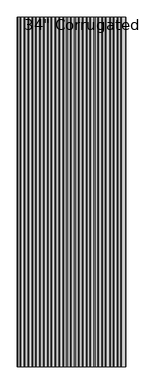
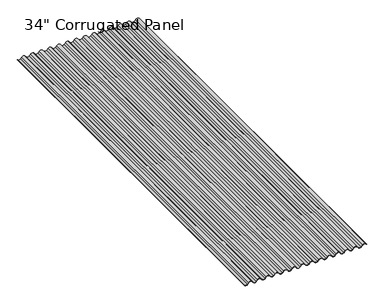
"""IFC4 building model written with IfcOpenShell, lengths in millimetres: proxy geometry."""

from ifc_helpers import new_model, si_unit, frame, origin, place, context, project, spatial, polyline, circle_curve, source, transform, mapped, element, save
from ifc_brep_helpers import plane_surface, cylinder_surface, revolved_surface, advanced_brep


def proxy_f98852e9(model_context):
    return source(origin(), model_context, "Body", "AdvancedBrep", [
        advanced_brep(
        [(-56.0964552, -3048.0, 6.1146511), (-46.8671078, -3048.0, 16.9570561), (-22.6901184, -3048.0, 16.9570561), (-13.460771, -3048.0, 6.1146511), (12.9671802, -3048.0, 6.1146511), (21.2011041, -3048.0, 15.7876575), (46.4352073, -3048.0, 15.7876575), (55.2823559, -3048.0, 5.3942501), (81.6641956, -3048.0, 5.3942501), (90.5113443, -3048.0, 15.7876575), (115.7454475, -3048.0, 15.7876575), (124.5925961, -3048.0, 5.3942501), (148.7695854, -3048.0, 5.3942501), (157.9995916, -3048.0, 16.2366551), (183.0972407, -3048.0, 16.2366551), (192.3265882, -3048.0, 5.3942501), (216.5035775, -3048.0, 5.3942501), (225.732925, -3048.0, 16.2366551), (250.8305741, -3048.0, 16.2366551), (260.0599215, -3048.0, 5.3942501), (284.2369108, -3048.0, 5.3942501), (293.4662583, -3048.0, 16.2366551), (318.5639074, -3048.0, 16.2366551), (327.7932549, -3048.0, 5.3942501), (351.9702442, -3048.0, 5.3942501), (361.1995916, -3048.0, 16.2366551), (386.2972407, -3048.0, 16.2366551), (395.5265882, -3048.0, 5.3942501), (419.7035775, -3048.0, 5.3942501), (428.932925, -3048.0, 16.2366551), (454.0270538, -3048.0, 16.2366551), (458.4362991, -3048.0, 11.0567847), (459.0735568, -3048.0, 11.6940423), (454.70879, -3048.0, 16.8216604), (428.2511887, -3048.0, 16.8216604), (419.0235962, -3048.0, 5.9813171), (396.2065592, -3048.0, 5.9813171), (386.9772066, -3048.0, 16.8237282), (360.5196052, -3048.0, 16.8237282), (351.2902475, -3048.0, 5.981311), (328.4732104, -3048.0, 5.981311), (319.2438423, -3048.0, 16.8237402), (292.786241, -3048.0, 16.8237402), (283.5568524, -3048.0, 5.9812869), (260.7398153, -3048.0, 5.9812869), (251.5103855, -3048.0, 16.8237886), (225.0527842, -3048.0, 16.8237886), (215.823272, -3048.0, 5.9811901), (193.0062349, -3048.0, 5.9811901), (183.7765581, -3048.0, 16.8239821), (157.3189567, -3048.0, 16.8239821), (148.0892799, -3048.0, 5.9811901), (125.2722428, -3048.0, 5.9811901), (116.4267411, -3048.0, 16.3726628), (89.8287331, -3048.0, 16.3726628), (80.9832314, -3048.0, 5.9811901), (55.9620027, -3048.0, 5.9811901), (47.116501, -3048.0, 16.3726628), (20.5184929, -3048.0, 16.3726628), (12.2862807, -3048.0, 6.7016671), (-12.7806596, -3048.0, 6.7016671), (-22.0082954, -3048.0, 17.5420613), (-47.5489308, -3048.0, 17.5420613), (-56.7765666, -3048.0, 6.7016671), (-80.5142635, -3048.0, 6.7016671), (-89.7437462, -3048.0, 17.544231), (-115.2806878, -3048.0, 17.544231), (-124.5103058, -3048.0, 6.7015082), (-148.2480026, -3048.0, 6.7015082), (-157.4778911, -3048.0, 17.5445488), (-183.0148327, -3048.0, 17.5445488), (-192.2452623, -3048.0, 6.7008725), (-215.9829591, -3048.0, 6.7008725), (-225.2127394, -3048.0, 17.5437861), (-250.749681, -3048.0, 17.5437861), (-259.9764314, -3048.0, 6.7044321), (-283.7141282, -3048.0, 6.7044321), (-292.9428732, -3048.0, 17.5461294), (-318.4798148, -3048.0, 17.5461294), (-327.7091622, -3048.0, 6.7037244), (-351.4468591, -3048.0, 6.7037244), (-360.6757927, -3048.0, 17.5456432), (-386.2127342, -3048.0, 17.5456432), (-395.4451307, -3048.0, 6.6996563), (-419.1828275, -3048.0, 6.6996563), (-422.5069723, -3048.0, 10.604778), (-428.2511887, -3048.0, 17.3560326), (-454.70879, -3048.0, 17.3560326), (-463.9390868, -3048.0, 6.5125123), (-486.5540666, -3048.0, 6.2800254), (-488.1596764, -3048.0, 8.1662554), (-488.7975284, -3048.0, 7.5284034), (-487.4357516, -3048.0, 5.9286223), (-463.2587623, -3048.0, 5.9286223), (-454.0294148, -3048.0, 16.7710273), (-428.9317657, -3048.0, 16.7710273), (-423.1888257, -3048.0, 10.024366), (-419.860771, -3048.0, 6.1146511), (-394.7631219, -3048.0, 6.1146511), (-385.5337744, -3048.0, 16.9570561), (-361.3567851, -3048.0, 16.9570561), (-352.1274376, -3048.0, 6.1146511), (-327.0297886, -3048.0, 6.1146511), (-317.8004411, -3048.0, 16.9570561), (-293.6234518, -3048.0, 16.9570561), (-284.3941043, -3048.0, 6.1146511), (-259.2964552, -3048.0, 6.1146511), (-250.0671078, -3048.0, 16.9570561), (-225.8901184, -3048.0, 16.9570561), (-216.660771, -3048.0, 6.1146511), (-191.5631219, -3048.0, 6.1146511), (-182.3337744, -3048.0, 16.9570561), (-158.1567851, -3048.0, 16.9570561), (-148.9274376, -3048.0, 6.1146511), (-123.8297886, -3048.0, 6.1146511), (-114.6004411, -3048.0, 16.9570561), (-90.4234518, -3048.0, 16.9570561), (-81.1941043, -3048.0, 6.1146511), (-56.0964552, 0.0, 6.1146511), (-81.1941043, 0.0, 6.1146511), (-90.4234518, 0.0, 16.9570561), (-114.6004411, 0.0, 16.9570561), (-123.8297886, 0.0, 6.1146511), (-148.9274376, 0.0, 6.1146511), (-158.1567851, 0.0, 16.9570561), (-182.3337744, 0.0, 16.9570561), (-191.5631219, 0.0, 6.1146511), (-216.660771, 0.0, 6.1146511), (-225.8901184, 0.0, 16.9570561), (-250.0671078, 0.0, 16.9570561), (-259.2964552, 0.0, 6.1146511), (-284.3941043, 0.0, 6.1146511), (-293.6234518, 0.0, 16.9570561), (-317.8004411, 0.0, 16.9570561), (-327.0297886, 0.0, 6.1146511), (-352.1274376, 0.0, 6.1146511), (-361.3567851, 0.0, 16.9570561), (-385.5337744, 0.0, 16.9570561), (-394.7631219, 0.0, 6.1146511), (-419.860771, 0.0, 6.1146511), (-423.1888257, 0.0, 10.024366), (-428.9317657, 0.0, 16.7710273), (-454.0294148, 0.0, 16.7710273), (-463.2587623, 0.0, 5.9286223), (-487.4357516, 0.0, 5.9286223), (-488.7975284, 0.0, 7.5284034), (-488.1596764, 0.0, 8.1662554), (-486.5540666, 0.0, 6.2800254), (-463.9390868, 0.0, 6.5125123), (-454.70879, 0.0, 17.3560326), (-428.2511887, 0.0, 17.3560326), (-422.5054453, 0.0, 10.6060779), (-419.1828275, 0.0, 6.6996563), (-395.4451307, 0.0, 6.6996563), (-386.2127342, 0.0, 17.5456432), (-360.6757927, 0.0, 17.5456432), (-351.4468591, 0.0, 6.7037244), (-327.7091622, 0.0, 6.7037244), (-318.4798148, 0.0, 17.5461294), (-292.9428732, 0.0, 17.5461294), (-283.7141282, 0.0, 6.7044321), (-259.9764314, 0.0, 6.7044321), (-250.749681, 0.0, 17.5437861), (-225.2127394, 0.0, 17.5437861), (-215.9829591, 0.0, 6.7008725), (-192.2452623, 0.0, 6.7008725), (-183.0148327, 0.0, 17.5445488), (-157.4778911, 0.0, 17.5445488), (-148.2480026, 0.0, 6.7015082), (-124.5103058, 0.0, 6.7015082), (-115.2806878, 0.0, 17.544231), (-89.7437462, 0.0, 17.544231), (-80.5142635, 0.0, 6.7016671), (-56.7765666, 0.0, 6.7016671), (-47.5489308, 0.0, 17.5420613), (-22.0082954, 0.0, 17.5420613), (-12.7806596, 0.0, 6.7016671), (12.2862807, 0.0, 6.7016671), (20.5184929, 0.0, 16.3726628), (47.116501, 0.0, 16.3726628), (55.9620027, 0.0, 5.9811901), (80.9832314, 0.0, 5.9811901), (89.8287331, 0.0, 16.3726628), (116.4267411, 0.0, 16.3726628), (125.2722428, 0.0, 5.9811901), (148.0892799, 0.0, 5.9811901), (157.3189567, 0.0, 16.8239821), (183.7765581, 0.0, 16.8239821), (193.0062349, 0.0, 5.9811901), (215.823272, 0.0, 5.9811901), (225.0527842, 0.0, 16.8237886), (251.5103855, 0.0, 16.8237886), (260.7398153, 0.0, 5.9812869), (283.5568524, 0.0, 5.9812869), (292.786241, 0.0, 16.8237402), (319.2438423, 0.0, 16.8237402), (328.4732104, 0.0, 5.981311), (351.2902475, 0.0, 5.981311), (360.5196052, 0.0, 16.8237282), (386.9772066, 0.0, 16.8237282), (396.2065592, 0.0, 5.9813171), (419.0235962, 0.0, 5.9813171), (428.2511887, 0.0, 16.8216604), (454.70879, 0.0, 16.8216604), (459.0735568, 0.0, 11.6940423), (458.4362991, 0.0, 11.0567847), (454.0270538, 0.0, 16.2366551), (428.932925, 0.0, 16.2366551), (419.7035775, 0.0, 5.3942501), (395.5265882, 0.0, 5.3942501), (386.2972407, 0.0, 16.2366551), (361.1995916, 0.0, 16.2366551), (351.9702442, 0.0, 5.3942501), (327.7932549, 0.0, 5.3942501), (318.5639074, 0.0, 16.2366551), (293.4662583, 0.0, 16.2366551), (284.2369108, 0.0, 5.3942501), (260.0599215, 0.0, 5.3942501), (250.8305741, 0.0, 16.2366551), (225.732925, 0.0, 16.2366551), (216.5035775, 0.0, 5.3942501), (192.3265882, 0.0, 5.3942501), (183.0972407, 0.0, 16.2366551), (157.9995916, 0.0, 16.2366551), (148.7702442, 0.0, 5.3942501), (124.5925961, 0.0, 5.3942501), (115.7454475, 0.0, 15.7876575), (90.5113443, 0.0, 15.7876575), (81.6641956, 0.0, 5.3942501), (55.2823559, 0.0, 5.3942501), (46.4352073, 0.0, 15.7876575), (21.2011041, 0.0, 15.7876575), (12.9671802, 0.0, 6.1146511), (-13.460771, 0.0, 6.1146511), (-22.6901184, 0.0, 16.9570561), (-46.8671078, 0.0, 16.9570561)],
        [
            (0, 1),
            (1, 2, circle_curve(frame((-34.7786131, -3048.0, 6.6670035), z_axis=(0.0, 1.0, 0.0), x_axis=(1.0, 0.0, 0.0)), 15.8750397)),
            (2, 3),
            (3, 4, circle_curve(frame((-0.2467954, -3048.0, 17.3627433), z_axis=(0.0, -1.0, 0.0), x_axis=(1.0, 0.0, 0.0)), 17.3530611)),
            (4, 5),
            (5, 6, circle_curve(frame((33.8181557, -3048.0, 5.047683), z_axis=(0.0, 1.0, 0.0), x_axis=(1.0, 0.0, 0.0)), 16.5691594)),
            (6, 7),
            (7, 8, circle_curve(frame((68.4732758, -3048.0, 16.6227167), z_axis=(0.0, -1.0, 0.0), x_axis=(1.0, 0.0, 0.0)), 17.3227835)),
            (8, 9),
            (9, 10, circle_curve(frame((103.1283959, -3048.0, 5.047683), z_axis=(0.0, 1.0, 0.0), x_axis=(1.0, 0.0, 0.0)), 16.5691594)),
            (10, 11),
            (11, 12, circle_curve(frame((136.6810907, -3048.0, 15.6843027), z_axis=(0.0, -1.0, 0.0), x_axis=(1.0, 0.0, 0.0)), 15.8750397)),
            (12, 13),
            (13, 14, circle_curve(frame((170.5484162, -3048.0, 5.5547573), z_axis=(0.0, 1.0, 0.0), x_axis=(1.0, 0.0, 0.0)), 16.4795612)),
            (14, 15),
            (15, 16, circle_curve(frame((204.4150829, -3048.0, 15.6843027), z_axis=(0.0, -1.0, 0.0), x_axis=(1.0, 0.0, 0.0)), 15.8750397)),
            (16, 17),
            (17, 18, circle_curve(frame((238.2817495, -3048.0, 5.5547573), z_axis=(0.0, 1.0, 0.0), x_axis=(1.0, 0.0, 0.0)), 16.4795612)),
            (18, 19),
            (19, 20, circle_curve(frame((272.1484162, -3048.0, 15.6843027), z_axis=(0.0, -1.0, 0.0), x_axis=(1.0, 0.0, 0.0)), 15.8750397)),
            (20, 21),
            (21, 22, circle_curve(frame((306.0150829, -3048.0, 5.5547573), z_axis=(0.0, 1.0, 0.0), x_axis=(1.0, 0.0, 0.0)), 16.4795612)),
            (22, 23),
            (23, 24, circle_curve(frame((339.8817495, -3048.0, 15.6843027), z_axis=(0.0, -1.0, 0.0), x_axis=(1.0, 0.0, 0.0)), 15.8750397)),
            (24, 25),
            (25, 26, circle_curve(frame((373.7484162, -3048.0, 5.5547573), z_axis=(0.0, 1.0, 0.0), x_axis=(1.0, 0.0, 0.0)), 16.4795612)),
            (26, 27),
            (27, 28, circle_curve(frame((407.6150829, -3048.0, 15.6843027), z_axis=(0.0, -1.0, 0.0), x_axis=(1.0, 0.0, 0.0)), 15.8750397)),
            (28, 29),
            (29, 30, circle_curve(frame((441.4799894, -3048.0, 5.5562556), z_axis=(0.0, 1.0, 0.0), x_axis=(1.0, 0.0, 0.0)), 16.4772497)),
            (30, 31),
            (31, 32),
            (32, 33),
            (33, 34, circle_curve(frame((441.4799894, -3048.0, 5.5609486), z_axis=(0.0, -1.0, 0.0), x_axis=(1.0, 0.0, 0.0)), 17.3725299)),
            (34, 35),
            (35, 36, circle_curve(frame((407.6150777, -3048.0, 15.6925556), z_axis=(0.0, 1.0, 0.0), x_axis=(1.0, 0.0, 0.0)), 14.9820709)),
            (36, 37),
            (37, 38, circle_curve(frame((373.7484059, -3048.0, 5.5630164), z_axis=(0.0, -1.0, 0.0), x_axis=(1.0, 0.0, 0.0)), 17.3725299)),
            (38, 39),
            (39, 40, circle_curve(frame((339.8817289, -3048.0, 15.6925496), z_axis=(0.0, 1.0, 0.0), x_axis=(1.0, 0.0, 0.0)), 14.9820709)),
            (40, 41),
            (41, 42, circle_curve(frame((306.0150417, -3048.0, 5.5630285), z_axis=(0.0, -1.0, 0.0), x_axis=(1.0, 0.0, 0.0)), 17.3725299)),
            (42, 43),
            (43, 44, circle_curve(frame((272.1483338, -3048.0, 15.6925254), z_axis=(0.0, 1.0, 0.0), x_axis=(1.0, 0.0, 0.0)), 14.9820709)),
            (44, 45),
            (45, 46, circle_curve(frame((238.2815848, -3048.0, 5.5630768), z_axis=(0.0, -1.0, 0.0), x_axis=(1.0, 0.0, 0.0)), 17.3725299)),
            (46, 47),
            (47, 48, circle_curve(frame((204.4147535, -3048.0, 15.6924287), z_axis=(0.0, 1.0, 0.0), x_axis=(1.0, 0.0, 0.0)), 14.9820709)),
            (48, 49),
            (49, 50, circle_curve(frame((170.5477574, -3048.0, 5.5632703), z_axis=(0.0, -1.0, 0.0), x_axis=(1.0, 0.0, 0.0)), 17.3725299)),
            (50, 51),
            (51, 52, circle_curve(frame((136.6807614, -3048.0, 15.6924287), z_axis=(0.0, 1.0, 0.0), x_axis=(1.0, 0.0, 0.0)), 14.9820709)),
            (52, 53),
            (53, 54, circle_curve(frame((103.1277371, -3048.0, 5.052192), z_axis=(0.0, -1.0, 0.0), x_axis=(1.0, 0.0, 0.0)), 17.4647235)),
            (54, 55),
            (55, 56, circle_curve(frame((68.472617, -3048.0, 16.6305623), z_axis=(0.0, 1.0, 0.0), x_axis=(1.0, 0.0, 0.0)), 16.4293822)),
            (56, 57),
            (57, 58, circle_curve(frame((33.817497, -3048.0, 5.052192), z_axis=(0.0, -1.0, 0.0), x_axis=(1.0, 0.0, 0.0)), 17.4647235)),
            (58, 59),
            (59, 60, circle_curve(frame((-0.2471895, -3048.0, 17.3704948), z_axis=(0.0, 1.0, 0.0), x_axis=(1.0, 0.0, 0.0)), 16.4593972)),
            (60, 61),
            (61, 62, circle_curve(frame((-34.7786131, -3048.0, 6.6716226), z_axis=(0.0, -1.0, 0.0), x_axis=(1.0, 0.0, 0.0)), 16.7704338)),
            (62, 63),
            (63, 64, circle_curve(frame((-68.645415, -3048.0, 16.8047509), z_axis=(0.0, 1.0, 0.0), x_axis=(1.0, 0.0, 0.0)), 15.5865924)),
            (64, 65),
            (65, 66, circle_curve(frame((-102.512217, -3048.0, 6.6753644), z_axis=(0.0, -1.0, 0.0), x_axis=(1.0, 0.0, 0.0)), 16.7680084)),
            (66, 67),
            (67, 68, circle_curve(frame((-136.3791542, -3048.0, 16.8045919), z_axis=(0.0, 1.0, 0.0), x_axis=(1.0, 0.0, 0.0)), 15.5865924)),
            (68, 69),
            (69, 70, circle_curve(frame((-170.2463619, -3048.0, 6.6756823), z_axis=(0.0, -1.0, 0.0), x_axis=(1.0, 0.0, 0.0)), 16.7680084)),
            (70, 71),
            (71, 72, circle_curve(frame((-204.1141107, -3048.0, 16.8039563), z_axis=(0.0, 1.0, 0.0), x_axis=(1.0, 0.0, 0.0)), 15.5865924)),
            (72, 73),
            (73, 74, circle_curve(frame((-237.9812102, -3048.0, 6.6749195), z_axis=(0.0, -1.0, 0.0), x_axis=(1.0, 0.0, 0.0)), 16.7680084)),
            (74, 75),
            (75, 76, circle_curve(frame((-271.8452798, -3048.0, 16.8075159), z_axis=(0.0, 1.0, 0.0), x_axis=(1.0, 0.0, 0.0)), 15.5865924)),
            (76, 77),
            (77, 78, circle_curve(frame((-305.711344, -3048.0, 6.6772628), z_axis=(0.0, -1.0, 0.0), x_axis=(1.0, 0.0, 0.0)), 16.7680084)),
            (78, 79),
            (79, 80, circle_curve(frame((-339.5780107, -3048.0, 16.8068081), z_axis=(0.0, 1.0, 0.0), x_axis=(1.0, 0.0, 0.0)), 15.5865924)),
            (80, 81),
            (81, 82, circle_curve(frame((-373.4442634, -3048.0, 6.6767766), z_axis=(0.0, -1.0, 0.0), x_axis=(1.0, 0.0, 0.0)), 16.7680084)),
            (82, 83),
            (83, 84, circle_curve(frame((-407.3139791, -3048.0, 16.8027401), z_axis=(0.0, 1.0, 0.0), x_axis=(1.0, 0.0, 0.0)), 15.5865924)),
            (84, 85),
            (85, 86),
            (86, 87, circle_curve(frame((-441.4799894, -3048.0, 6.0953208), z_axis=(0.0, -1.0, 0.0), x_axis=(1.0, 0.0, 0.0)), 17.3725299)),
            (87, 88),
            (88, 89, circle_curve(frame((-475.3476054, -3048.0, 16.2237508), z_axis=(0.0, 1.0, 0.0), x_axis=(1.0, 0.0, 0.0)), 14.9820709)),
            (89, 90),
            (90, 91),
            (91, 92),
            (92, 93, circle_curve(frame((-475.3472569, -3048.0, 16.2186748), z_axis=(0.0, -1.0, 0.0), x_axis=(1.0, 0.0, 0.0)), 15.8750397)),
            (93, 94),
            (94, 95, circle_curve(frame((-441.4805903, -3048.0, 6.0891295), z_axis=(0.0, 1.0, 0.0), x_axis=(1.0, 0.0, 0.0)), 16.4795612)),
            (95, 96),
            (96, 97),
            (97, 98, circle_curve(frame((-407.3119464, -3048.0, 16.7965488), z_axis=(0.0, -1.0, 0.0), x_axis=(1.0, 0.0, 0.0)), 16.4795612)),
            (98, 99),
            (99, 100, circle_curve(frame((-373.4452798, -3048.0, 6.6670035), z_axis=(0.0, 1.0, 0.0), x_axis=(1.0, 0.0, 0.0)), 15.8750397)),
            (100, 101),
            (101, 102, circle_curve(frame((-339.5786131, -3048.0, 16.7965488), z_axis=(0.0, -1.0, 0.0), x_axis=(1.0, 0.0, 0.0)), 16.4795612)),
            (102, 103),
            (103, 104, circle_curve(frame((-305.7119464, -3048.0, 6.6670035), z_axis=(0.0, 1.0, 0.0), x_axis=(1.0, 0.0, 0.0)), 15.8750397)),
            (104, 105),
            (105, 106, circle_curve(frame((-271.8452798, -3048.0, 16.7965488), z_axis=(0.0, -1.0, 0.0), x_axis=(1.0, 0.0, 0.0)), 16.4795612)),
            (106, 107),
            (107, 108, circle_curve(frame((-237.9786131, -3048.0, 6.6670035), z_axis=(0.0, 1.0, 0.0), x_axis=(1.0, 0.0, 0.0)), 15.8750397)),
            (108, 109),
            (109, 110, circle_curve(frame((-204.1119464, -3048.0, 16.7965488), z_axis=(0.0, -1.0, 0.0), x_axis=(1.0, 0.0, 0.0)), 16.4795612)),
            (110, 111),
            (111, 112, circle_curve(frame((-170.2452798, -3048.0, 6.6670035), z_axis=(0.0, 1.0, 0.0), x_axis=(1.0, 0.0, 0.0)), 15.8750397)),
            (112, 113),
            (113, 114, circle_curve(frame((-136.3786131, -3048.0, 16.7965488), z_axis=(0.0, -1.0, 0.0), x_axis=(1.0, 0.0, 0.0)), 16.4795612)),
            (114, 115),
            (115, 116, circle_curve(frame((-102.5119464, -3048.0, 6.6670035), z_axis=(0.0, 1.0, 0.0), x_axis=(1.0, 0.0, 0.0)), 15.8750397)),
            (116, 117),
            (117, 0, circle_curve(frame((-68.6452798, -3048.0, 16.7965488), z_axis=(0.0, -1.0, 0.0), x_axis=(1.0, 0.0, 0.0)), 16.4795612)),
            (118, 119, circle_curve(frame((-68.6452798, 0.0, 16.7965488), z_axis=(0.0, 1.0, 0.0), x_axis=(1.0, 0.0, 0.0)), 16.4795612)),
            (119, 120),
            (120, 121, circle_curve(frame((-102.5119464, 0.0, 6.6670035), z_axis=(0.0, -1.0, 0.0), x_axis=(1.0, 0.0, 0.0)), 15.8750397)),
            (121, 122),
            (122, 123, circle_curve(frame((-136.3786131, 0.0, 16.7965488), z_axis=(0.0, 1.0, 0.0), x_axis=(1.0, 0.0, 0.0)), 16.4795612)),
            (123, 124),
            (124, 125, circle_curve(frame((-170.2452798, 0.0, 6.6670035), z_axis=(0.0, -1.0, 0.0), x_axis=(1.0, 0.0, 0.0)), 15.8750397)),
            (125, 126),
            (126, 127, circle_curve(frame((-204.1119464, 0.0, 16.7965488), z_axis=(0.0, 1.0, 0.0), x_axis=(1.0, 0.0, 0.0)), 16.4795612)),
            (127, 128),
            (128, 129, circle_curve(frame((-237.9786131, 0.0, 6.6670035), z_axis=(0.0, -1.0, 0.0), x_axis=(1.0, 0.0, 0.0)), 15.8750397)),
            (129, 130),
            (130, 131, circle_curve(frame((-271.8452798, 0.0, 16.7965488), z_axis=(0.0, 1.0, 0.0), x_axis=(1.0, 0.0, 0.0)), 16.4795612)),
            (131, 132),
            (132, 133, circle_curve(frame((-305.7119464, 0.0, 6.6670035), z_axis=(0.0, -1.0, 0.0), x_axis=(1.0, 0.0, 0.0)), 15.8750397)),
            (133, 134),
            (134, 135, circle_curve(frame((-339.5786131, 0.0, 16.7965488), z_axis=(0.0, 1.0, 0.0), x_axis=(1.0, 0.0, 0.0)), 16.4795612)),
            (135, 136),
            (136, 137, circle_curve(frame((-373.4452798, 0.0, 6.6670035), z_axis=(0.0, -1.0, 0.0), x_axis=(1.0, 0.0, 0.0)), 15.8750397)),
            (137, 138),
            (138, 139, circle_curve(frame((-407.3119464, 0.0, 16.7965488), z_axis=(0.0, 1.0, 0.0), x_axis=(1.0, 0.0, 0.0)), 16.4795612)),
            (139, 140),
            (140, 141),
            (141, 142, circle_curve(frame((-441.4805903, 0.0, 6.0891295), z_axis=(0.0, -1.0, 0.0), x_axis=(1.0, 0.0, 0.0)), 16.4795612)),
            (142, 143),
            (143, 144, circle_curve(frame((-475.3472569, 0.0, 16.2186748), z_axis=(0.0, 1.0, 0.0), x_axis=(1.0, 0.0, 0.0)), 15.8750397)),
            (144, 145),
            (145, 146),
            (146, 147),
            (147, 148, circle_curve(frame((-475.3476054, 0.0, 16.2237508), z_axis=(0.0, -1.0, 0.0), x_axis=(1.0, 0.0, 0.0)), 14.9820709)),
            (148, 149),
            (149, 150, circle_curve(frame((-441.4799894, 0.0, 6.0953208), z_axis=(0.0, 1.0, 0.0), x_axis=(1.0, 0.0, 0.0)), 17.3725299)),
            (150, 151),
            (151, 152),
            (152, 153, circle_curve(frame((-407.3139791, 0.0, 16.8027401), z_axis=(0.0, -1.0, 0.0), x_axis=(1.0, 0.0, 0.0)), 15.5865924)),
            (153, 154),
            (154, 155, circle_curve(frame((-373.4442634, 0.0, 6.6767766), z_axis=(0.0, 1.0, 0.0), x_axis=(1.0, 0.0, 0.0)), 16.7680084)),
            (155, 156),
            (156, 157, circle_curve(frame((-339.5780107, 0.0, 16.8068081), z_axis=(0.0, -1.0, 0.0), x_axis=(1.0, 0.0, 0.0)), 15.5865924)),
            (157, 158),
            (158, 159, circle_curve(frame((-305.711344, 0.0, 6.6772628), z_axis=(0.0, 1.0, 0.0), x_axis=(1.0, 0.0, 0.0)), 16.7680084)),
            (159, 160),
            (160, 161, circle_curve(frame((-271.8452798, 0.0, 16.8075159), z_axis=(0.0, -1.0, 0.0), x_axis=(1.0, 0.0, 0.0)), 15.5865924)),
            (161, 162),
            (162, 163, circle_curve(frame((-237.9812102, 0.0, 6.6749195), z_axis=(0.0, 1.0, 0.0), x_axis=(1.0, 0.0, 0.0)), 16.7680084)),
            (163, 164),
            (164, 165, circle_curve(frame((-204.1141107, 0.0, 16.8039563), z_axis=(0.0, -1.0, 0.0), x_axis=(1.0, 0.0, 0.0)), 15.5865924)),
            (165, 166),
            (166, 167, circle_curve(frame((-170.2463619, 0.0, 6.6756823), z_axis=(0.0, 1.0, 0.0), x_axis=(1.0, 0.0, 0.0)), 16.7680084)),
            (167, 168),
            (168, 169, circle_curve(frame((-136.3791542, 0.0, 16.8045919), z_axis=(0.0, -1.0, 0.0), x_axis=(1.0, 0.0, 0.0)), 15.5865924)),
            (169, 170),
            (170, 171, circle_curve(frame((-102.512217, 0.0, 6.6753644), z_axis=(0.0, 1.0, 0.0), x_axis=(1.0, 0.0, 0.0)), 16.7680084)),
            (171, 172),
            (172, 173, circle_curve(frame((-68.645415, 0.0, 16.8047509), z_axis=(0.0, -1.0, 0.0), x_axis=(1.0, 0.0, 0.0)), 15.5865924)),
            (173, 174),
            (174, 175, circle_curve(frame((-34.7786131, 0.0, 6.6716226), z_axis=(0.0, 1.0, 0.0), x_axis=(1.0, 0.0, 0.0)), 16.7704338)),
            (175, 176),
            (176, 177, circle_curve(frame((-0.2471895, 0.0, 17.3704948), z_axis=(0.0, -1.0, 0.0), x_axis=(1.0, 0.0, 0.0)), 16.4593972)),
            (177, 178),
            (178, 179, circle_curve(frame((33.817497, 0.0, 5.052192), z_axis=(0.0, 1.0, 0.0), x_axis=(1.0, 0.0, 0.0)), 17.4647235)),
            (179, 180),
            (180, 181, circle_curve(frame((68.472617, 0.0, 16.6305623), z_axis=(0.0, -1.0, 0.0), x_axis=(1.0, 0.0, 0.0)), 16.4293822)),
            (181, 182),
            (182, 183, circle_curve(frame((103.1277371, 0.0, 5.052192), z_axis=(0.0, 1.0, 0.0), x_axis=(1.0, 0.0, 0.0)), 17.4647235)),
            (183, 184),
            (184, 185, circle_curve(frame((136.6807614, 0.0, 15.6924287), z_axis=(0.0, -1.0, 0.0), x_axis=(1.0, 0.0, 0.0)), 14.9820709)),
            (185, 186),
            (186, 187, circle_curve(frame((170.5477574, 0.0, 5.5632703), z_axis=(0.0, 1.0, 0.0), x_axis=(1.0, 0.0, 0.0)), 17.3725299)),
            (187, 188),
            (188, 189, circle_curve(frame((204.4147535, 0.0, 15.6924287), z_axis=(0.0, -1.0, 0.0), x_axis=(1.0, 0.0, 0.0)), 14.9820709)),
            (189, 190),
            (190, 191, circle_curve(frame((238.2815848, 0.0, 5.5630768), z_axis=(0.0, 1.0, 0.0), x_axis=(1.0, 0.0, 0.0)), 17.3725299)),
            (191, 192),
            (192, 193, circle_curve(frame((272.1483338, 0.0, 15.6925254), z_axis=(0.0, -1.0, 0.0), x_axis=(1.0, 0.0, 0.0)), 14.9820709)),
            (193, 194),
            (194, 195, circle_curve(frame((306.0150417, 0.0, 5.5630285), z_axis=(0.0, 1.0, 0.0), x_axis=(1.0, 0.0, 0.0)), 17.3725299)),
            (195, 196),
            (196, 197, circle_curve(frame((339.8817289, 0.0, 15.6925496), z_axis=(0.0, -1.0, 0.0), x_axis=(1.0, 0.0, 0.0)), 14.9820709)),
            (197, 198),
            (198, 199, circle_curve(frame((373.7484059, 0.0, 5.5630164), z_axis=(0.0, 1.0, 0.0), x_axis=(1.0, 0.0, 0.0)), 17.3725299)),
            (199, 200),
            (200, 201, circle_curve(frame((407.6150777, 0.0, 15.6925556), z_axis=(0.0, -1.0, 0.0), x_axis=(1.0, 0.0, 0.0)), 14.9820709)),
            (201, 202),
            (202, 203, circle_curve(frame((441.4799894, 0.0, 5.5609486), z_axis=(0.0, 1.0, 0.0), x_axis=(1.0, 0.0, 0.0)), 17.3725299)),
            (203, 204),
            (204, 205),
            (205, 206),
            (206, 207, circle_curve(frame((441.4799894, 0.0, 5.5562556), z_axis=(0.0, -1.0, 0.0), x_axis=(1.0, 0.0, 0.0)), 16.4772497)),
            (207, 208),
            (208, 209, circle_curve(frame((407.6150829, 0.0, 15.6843027), z_axis=(0.0, 1.0, 0.0), x_axis=(1.0, 0.0, 0.0)), 15.8750397)),
            (209, 210),
            (210, 211, circle_curve(frame((373.7484162, 0.0, 5.5547573), z_axis=(0.0, -1.0, 0.0), x_axis=(1.0, 0.0, 0.0)), 16.4795612)),
            (211, 212),
            (212, 213, circle_curve(frame((339.8817495, 0.0, 15.6843027), z_axis=(0.0, 1.0, 0.0), x_axis=(1.0, 0.0, 0.0)), 15.8750397)),
            (213, 214),
            (214, 215, circle_curve(frame((306.0150829, 0.0, 5.5547573), z_axis=(0.0, -1.0, 0.0), x_axis=(1.0, 0.0, 0.0)), 16.4795612)),
            (215, 216),
            (216, 217, circle_curve(frame((272.1484162, 0.0, 15.6843027), z_axis=(0.0, 1.0, 0.0), x_axis=(1.0, 0.0, 0.0)), 15.8750397)),
            (217, 218),
            (218, 219, circle_curve(frame((238.2817495, 0.0, 5.5547573), z_axis=(0.0, -1.0, 0.0), x_axis=(1.0, 0.0, 0.0)), 16.4795612)),
            (219, 220),
            (220, 221, circle_curve(frame((204.4150829, 0.0, 15.6843027), z_axis=(0.0, 1.0, 0.0), x_axis=(1.0, 0.0, 0.0)), 15.8750397)),
            (221, 222),
            (222, 223, circle_curve(frame((170.5484162, 0.0, 5.5547573), z_axis=(0.0, -1.0, 0.0), x_axis=(1.0, 0.0, 0.0)), 16.4795612)),
            (223, 224),
            (224, 225, circle_curve(frame((136.6810907, 0.0, 15.6843027), z_axis=(0.0, 1.0, 0.0), x_axis=(1.0, 0.0, 0.0)), 15.8750397)),
            (225, 226),
            (226, 227, circle_curve(frame((103.1283959, 0.0, 5.047683), z_axis=(0.0, -1.0, 0.0), x_axis=(1.0, 0.0, 0.0)), 16.5691594)),
            (227, 228),
            (228, 229, circle_curve(frame((68.4732758, 0.0, 16.6227167), z_axis=(0.0, 1.0, 0.0), x_axis=(1.0, 0.0, 0.0)), 17.3227835)),
            (229, 230),
            (230, 231, circle_curve(frame((33.8181557, 0.0, 5.047683), z_axis=(0.0, -1.0, 0.0), x_axis=(1.0, 0.0, 0.0)), 16.5691594)),
            (231, 232),
            (232, 233, circle_curve(frame((-0.2467954, 0.0, 17.3627433), z_axis=(0.0, 1.0, 0.0), x_axis=(1.0, 0.0, 0.0)), 17.3530611)),
            (233, 234),
            (234, 235, circle_curve(frame((-34.7786131, 0.0, 6.6670035), z_axis=(0.0, -1.0, 0.0), x_axis=(1.0, 0.0, 0.0)), 15.8750397)),
            (235, 118),
            (4, 232),
            (231, 5),
            (12, 224),
            (223, 13),
            (222, 14),
            (221, 15),
            (220, 16),
            (219, 17),
            (218, 18),
            (217, 19),
            (216, 20),
            (215, 21),
            (214, 22),
            (213, 23),
            (212, 24),
            (211, 25),
            (210, 26),
            (209, 27),
            (208, 28),
            (207, 29),
            (33, 203),
            (202, 34),
            (201, 35),
            (200, 36),
            (199, 37),
            (198, 38),
            (197, 39),
            (196, 40),
            (195, 41),
            (194, 42),
            (193, 43),
            (192, 44),
            (191, 45),
            (190, 46),
            (189, 47),
            (188, 48),
            (187, 49),
            (186, 50),
            (185, 51),
            (58, 178),
            (177, 59),
            (62, 174),
            (173, 63),
            (172, 64),
            (171, 65),
            (170, 66),
            (169, 67),
            (168, 68),
            (167, 69),
            (166, 70),
            (165, 71),
            (164, 72),
            (163, 73),
            (162, 74),
            (161, 75),
            (160, 76),
            (159, 77),
            (158, 78),
            (157, 79),
            (156, 80),
            (155, 81),
            (154, 82),
            (153, 83),
            (152, 84),
            (151, 85),
            (150, 86),
            (149, 87),
            (148, 88),
            (147, 89),
            (146, 90),
            (145, 91),
            (144, 92),
            (143, 93),
            (142, 94),
            (141, 95),
            (140, 96),
            (139, 97),
            (138, 98),
            (137, 99),
            (136, 100),
            (135, 101),
            (134, 102),
            (133, 103),
            (132, 104),
            (131, 105),
            (130, 106),
            (129, 107),
            (128, 108),
            (127, 109),
            (126, 110),
            (125, 111),
            (124, 112),
            (123, 113),
            (122, 114),
            (121, 115),
            (120, 116),
            (119, 117),
            (118, 0),
            (235, 1),
            (10, 226),
            (225, 11),
            (184, 52),
            (183, 53),
            (230, 6),
            (229, 7),
            (228, 8),
            (227, 9),
            (182, 54),
            (181, 55),
            (180, 56),
            (179, 57),
            (234, 2),
            (233, 3),
            (176, 60),
            (175, 61),
            (206, 30),
            (205, 31),
            (32, 204),
        ],
        [
            plane_surface(frame((-56.0964552, -3048.0, 6.1146511), z_axis=(0.0, -1.0, 0.0), x_axis=(0.6481906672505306, 0.0, 0.7614780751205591))),
            plane_surface(frame((-56.0964552, 0.0, 6.1146511), z_axis=(0.0, 1.0, 0.0), x_axis=(-0.6481906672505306, 0.0, -0.7614780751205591))),
            plane_surface(frame((12.9671802, -3048.0, 6.1146511), z_axis=(0.7614780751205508, 0.0, -0.6481906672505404), x_axis=(0.0, 1.0, 0.0))),
            plane_surface(frame((148.7702442, -3048.0, 5.3942501), z_axis=(0.7614780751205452, 0.0, -0.648190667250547), x_axis=(0.0, 1.0, 0.0))),
            revolved_surface(polyline([(187.0279774, 0.0, 5.5547573), (187.0279774, -3048.0, 5.5547573)]), (170.5484162, 0.0, 5.5547573), (0.0, 1.0, 0.0)),
            plane_surface(frame((183.0972407, -3048.0, 16.2366551), z_axis=(-0.7614780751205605, 0.0, -0.648190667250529), x_axis=(0.0, 1.0, 0.0))),
            cylinder_surface(frame((204.4150829, 0.0, 15.6843027), z_axis=(0.0, -1.0, 0.0), x_axis=(1.0, 0.0, 0.0)), 15.8750397),
            plane_surface(frame((216.5035775, -3048.0, 5.3942501), z_axis=(0.7614780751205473, 0.0, -0.6481906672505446), x_axis=(0.0, 1.0, 0.0))),
            revolved_surface(polyline([(254.7613107, 0.0, 5.5547573), (254.7613107, -3048.0, 5.5547573)]), (238.2817495, 0.0, 5.5547573), (0.0, 1.0, 0.0)),
            plane_surface(frame((250.8305741, -3048.0, 16.2366551), z_axis=(-0.7614780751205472, 0.0, -0.6481906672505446), x_axis=(0.0, 1.0, 0.0))),
            cylinder_surface(frame((272.1484162, 0.0, 15.6843027), z_axis=(0.0, -1.0, 0.0), x_axis=(1.0, 0.0, 0.0)), 15.8750397),
            plane_surface(frame((284.2369108, -3048.0, 5.3942501), z_axis=(0.7614780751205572, 0.0, -0.6481906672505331), x_axis=(0.0, 1.0, 0.0))),
            revolved_surface(polyline([(322.49464409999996, 0.0, 5.5547573), (322.49464409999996, -3048.0, 5.5547573)]), (306.0150829, 0.0, 5.5547573), (0.0, 1.0, 0.0)),
            plane_surface(frame((318.5639074, -3048.0, 16.2366551), z_axis=(-0.7614780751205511, 0.0, -0.6481906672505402), x_axis=(0.0, 1.0, 0.0))),
            cylinder_surface(frame((339.8817495, 0.0, 15.6843027), z_axis=(0.0, -1.0, 0.0), x_axis=(1.0, 0.0, 0.0)), 15.8750397),
            plane_surface(frame((351.9702442, -3048.0, 5.3942501), z_axis=(0.7614780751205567, 0.0, -0.6481906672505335), x_axis=(0.0, 1.0, 0.0))),
            revolved_surface(polyline([(390.2279774, 0.0, 5.5547573), (390.2279774, -3048.0, 5.5547573)]), (373.7484162, 0.0, 5.5547573), (0.0, 1.0, 0.0)),
            plane_surface(frame((386.2972407, -3048.0, 16.2366551), z_axis=(-0.7614780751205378, 0.0, -0.6481906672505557), x_axis=(0.0, 1.0, 0.0))),
            cylinder_surface(frame((407.6150829, 0.0, 15.6843027), z_axis=(0.0, -1.0, 0.0), x_axis=(1.0, 0.0, 0.0)), 15.8750397),
            plane_surface(frame((419.7035775, -3048.0, 5.3942501), z_axis=(0.7614780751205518, 0.0, -0.6481906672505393), x_axis=(0.0, 1.0, 0.0))),
            cylinder_surface(frame((441.4799894, 0.0, 5.5609486), z_axis=(0.0, -1.0, 0.0), x_axis=(1.0, 0.0, 0.0)), 17.3725299),
            plane_surface(frame((428.2511887, -3048.0, 16.8216604), z_axis=(-0.7614780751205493, 0.0, 0.6481906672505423), x_axis=(0.0, 1.0, 0.0))),
            revolved_surface(polyline([(422.59714859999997, 0.0, 15.6925556), (422.59714859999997, -3048.0, 15.6925556)]), (407.6150777, 0.0, 15.6925556), (0.0, 1.0, 0.0)),
            plane_surface(frame((396.2065592, -3048.0, 5.9813171), z_axis=(0.7614780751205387, 0.0, 0.6481906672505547), x_axis=(0.0, 1.0, 0.0))),
            cylinder_surface(frame((373.7484059, 0.0, 5.5630164), z_axis=(0.0, -1.0, 0.0), x_axis=(1.0, 0.0, 0.0)), 17.3725299),
            plane_surface(frame((360.5196052, -3048.0, 16.8237282), z_axis=(-0.761478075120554, 0.0, 0.6481906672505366), x_axis=(0.0, 1.0, 0.0))),
            revolved_surface(polyline([(354.8637998, 0.0, 15.6925496), (354.8637998, -3048.0, 15.6925496)]), (339.8817289, 0.0, 15.6925496), (0.0, 1.0, 0.0)),
            plane_surface(frame((328.4732104, -3048.0, 5.981311), z_axis=(0.7614780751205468, 0.0, 0.6481906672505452), x_axis=(0.0, 1.0, 0.0))),
            cylinder_surface(frame((306.0150417, 0.0, 5.5630285), z_axis=(0.0, -1.0, 0.0), x_axis=(1.0, 0.0, 0.0)), 17.3725299),
            plane_surface(frame((292.786241, -3048.0, 16.8237402), z_axis=(-0.7614780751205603, 0.0, 0.6481906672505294), x_axis=(0.0, 1.0, 0.0))),
            revolved_surface(polyline([(287.1304047, 0.0, 15.6925254), (287.1304047, -3048.0, 15.6925254)]), (272.1483338, 0.0, 15.6925254), (0.0, 1.0, 0.0)),
            plane_surface(frame((260.7398153, -3048.0, 5.9812869), z_axis=(0.7614780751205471, 0.0, 0.6481906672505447), x_axis=(0.0, 1.0, 0.0))),
            cylinder_surface(frame((238.2815848, 0.0, 5.5630768), z_axis=(0.0, -1.0, 0.0), x_axis=(1.0, 0.0, 0.0)), 17.3725299),
            plane_surface(frame((225.0527842, -3048.0, 16.8237886), z_axis=(-0.7614780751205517, 0.0, 0.6481906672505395), x_axis=(0.0, 1.0, 0.0))),
            revolved_surface(polyline([(219.39682439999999, 0.0, 15.6924287), (219.39682439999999, -3048.0, 15.6924287)]), (204.4147535, 0.0, 15.6924287), (0.0, 1.0, 0.0)),
            plane_surface(frame((193.0062349, -3048.0, 5.9811901), z_axis=(0.7614780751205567, 0.0, 0.6481906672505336), x_axis=(0.0, 1.0, 0.0))),
            cylinder_surface(frame((170.5477574, 0.0, 5.5632703), z_axis=(0.0, -1.0, 0.0), x_axis=(1.0, 0.0, 0.0)), 17.3725299),
            plane_surface(frame((157.3189567, -3048.0, 16.8239821), z_axis=(-0.7614780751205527, 0.0, 0.6481906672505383), x_axis=(0.0, 1.0, 0.0))),
            plane_surface(frame((20.5184929, -3048.0, 16.3726628), z_axis=(-0.7614780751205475, 0.0, 0.6481906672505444), x_axis=(0.0, 1.0, 0.0))),
            plane_surface(frame((-47.5489308, -3048.0, 17.5420613), z_axis=(-0.7614780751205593, 0.0, 0.6481906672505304), x_axis=(0.0, 1.0, 0.0))),
            revolved_surface(polyline([(-53.0588226, 0.0, 16.8047509), (-53.0588226, -3048.0, 16.8047509)]), (-68.645415, 0.0, 16.8047509), (0.0, 1.0, 0.0)),
            plane_surface(frame((-80.5142635, -3048.0, 6.7016671), z_axis=(0.7614780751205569, 0.0, 0.6481906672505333), x_axis=(0.0, 1.0, 0.0))),
            cylinder_surface(frame((-102.512217, 0.0, 6.6753644), z_axis=(0.0, -1.0, 0.0), x_axis=(1.0, 0.0, 0.0)), 16.7680084),
            plane_surface(frame((-115.2806878, -3048.0, 17.544231), z_axis=(-0.7614780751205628, 0.0, 0.6481906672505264), x_axis=(0.0, 1.0, 0.0))),
            revolved_surface(polyline([(-120.79256179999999, 0.0, 16.8045919), (-120.79256179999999, -3048.0, 16.8045919)]), (-136.3791542, 0.0, 16.8045919), (0.0, 1.0, 0.0)),
            plane_surface(frame((-148.2480026, -3048.0, 6.7015082), z_axis=(0.7614780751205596, 0.0, 0.6481906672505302), x_axis=(0.0, 1.0, 0.0))),
            cylinder_surface(frame((-170.2463619, 0.0, 6.6756823), z_axis=(0.0, -1.0, 0.0), x_axis=(1.0, 0.0, 0.0)), 16.7680084),
            plane_surface(frame((-183.0148327, -3048.0, 17.5445488), z_axis=(-0.7614780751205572, 0.0, 0.648190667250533), x_axis=(0.0, 1.0, 0.0))),
            revolved_surface(polyline([(-188.5275183, 0.0, 16.8039563), (-188.5275183, -3048.0, 16.8039563)]), (-204.1141107, 0.0, 16.8039563), (0.0, 1.0, 0.0)),
            plane_surface(frame((-215.9829591, -3048.0, 6.7008725), z_axis=(0.761478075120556, 0.0, 0.6481906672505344), x_axis=(0.0, 1.0, 0.0))),
            cylinder_surface(frame((-237.9812102, 0.0, 6.6749195), z_axis=(0.0, -1.0, 0.0), x_axis=(1.0, 0.0, 0.0)), 16.7680084),
            plane_surface(frame((-250.749681, -3048.0, 17.5437861), z_axis=(-0.7614780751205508, 0.0, 0.6481906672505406), x_axis=(0.0, 1.0, 0.0))),
            revolved_surface(polyline([(-256.2586874, 0.0, 16.8075159), (-256.2586874, -3048.0, 16.8075159)]), (-271.8452798, 0.0, 16.8075159), (0.0, 1.0, 0.0)),
            plane_surface(frame((-283.7141282, -3048.0, 6.7044321), z_axis=(0.7614780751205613, 0.0, 0.6481906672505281), x_axis=(0.0, 1.0, 0.0))),
            cylinder_surface(frame((-305.711344, 0.0, 6.6772628), z_axis=(0.0, -1.0, 0.0), x_axis=(1.0, 0.0, 0.0)), 16.7680084),
            plane_surface(frame((-318.4798148, -3048.0, 17.5461294), z_axis=(-0.7614780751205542, 0.0, 0.6481906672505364), x_axis=(0.0, 1.0, 0.0))),
            revolved_surface(polyline([(-323.99141829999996, 0.0, 16.8068081), (-323.99141829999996, -3048.0, 16.8068081)]), (-339.5780107, 0.0, 16.8068081), (0.0, 1.0, 0.0)),
            plane_surface(frame((-351.4468591, -3048.0, 6.7037244), z_axis=(0.7614780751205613, 0.0, 0.6481906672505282), x_axis=(0.0, 1.0, 0.0))),
            cylinder_surface(frame((-373.4442634, 0.0, 6.6767766), z_axis=(0.0, -1.0, 0.0), x_axis=(1.0, 0.0, 0.0)), 16.7680084),
            plane_surface(frame((-386.2127342, -3048.0, 17.5456432), z_axis=(-0.7614780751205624, 0.0, 0.6481906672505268), x_axis=(0.0, 1.0, 0.0))),
            revolved_surface(polyline([(-391.7273867, 0.0, 16.8027401), (-391.7273867, -3048.0, 16.8027401)]), (-407.3139791, 0.0, 16.8027401), (0.0, 1.0, 0.0)),
            plane_surface(frame((-419.1828275, -3048.0, 6.6996563), z_axis=(0.7614780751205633, 0.0, 0.6481906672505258), x_axis=(0.0, 1.0, 0.0))),
            plane_surface(frame((-422.5054453, -3048.0, 10.6060779), z_axis=(0.76147807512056, 0.0, 0.6481906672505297), x_axis=(0.0, 1.0, 0.0))),
            cylinder_surface(frame((-441.4799894, 0.0, 6.0953208), z_axis=(0.0, -1.0, 0.0), x_axis=(1.0, 0.0, 0.0)), 17.3725299),
            plane_surface(frame((-454.70879, -3048.0, 17.3560326), z_axis=(-0.7614780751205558, 0.0, 0.6481906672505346), x_axis=(0.0, 1.0, 0.0))),
            revolved_surface(polyline([(-460.3655345, 0.0, 16.2237508), (-460.3655345, -3048.0, 16.2237508)]), (-475.3476054, 0.0, 16.2237508), (0.0, 1.0, 0.0)),
            plane_surface(frame((-486.5540666, -3048.0, 6.2800254), z_axis=(0.7614780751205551, 0.0, 0.6481906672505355), x_axis=(0.0, 1.0, 0.0))),
            plane_surface(frame((-488.1596764, -3048.0, 8.1662554), z_axis=(-0.7071067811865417, 0.0, 0.7071067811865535), x_axis=(0.0, 1.0, 0.0))),
            plane_surface(frame((-488.7975284, -3048.0, 7.5284034), z_axis=(-0.7614780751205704, 0.0, -0.6481906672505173), x_axis=(0.0, 1.0, 0.0))),
            cylinder_surface(frame((-475.3472569, 0.0, 16.2186748), z_axis=(0.0, -1.0, 0.0), x_axis=(1.0, 0.0, 0.0)), 15.8750397),
            plane_surface(frame((-463.2587623, -3048.0, 5.9286223), z_axis=(0.7614780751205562, 0.0, -0.6481906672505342), x_axis=(0.0, 1.0, 0.0))),
            revolved_surface(polyline([(-425.00102910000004, 0.0, 6.0891295), (-425.00102910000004, -3048.0, 6.0891295)]), (-441.4805903, 0.0, 6.0891295), (0.0, 1.0, 0.0)),
            plane_surface(frame((-428.9317657, -3048.0, 16.7710273), z_axis=(-0.7614780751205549, 0.0, -0.6481906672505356), x_axis=(0.0, 1.0, 0.0))),
            plane_surface(frame((-423.1888257, -3048.0, 10.024366), z_axis=(-0.7614780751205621, 0.0, -0.6481906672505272), x_axis=(0.0, 1.0, 0.0))),
            cylinder_surface(frame((-407.3119464, 0.0, 16.7965488), z_axis=(0.0, -1.0, 0.0), x_axis=(1.0, 0.0, 0.0)), 16.4795612),
            plane_surface(frame((-394.7631219, -3048.0, 6.1146511), z_axis=(0.7614780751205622, 0.0, -0.6481906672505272), x_axis=(0.0, 1.0, 0.0))),
            revolved_surface(polyline([(-357.5702401, 0.0, 6.6670035), (-357.5702401, -3048.0, 6.6670035)]), (-373.4452798, 0.0, 6.6670035), (0.0, 1.0, 0.0)),
            plane_surface(frame((-361.3567851, -3048.0, 16.9570561), z_axis=(-0.7614780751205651, 0.0, -0.6481906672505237), x_axis=(0.0, 1.0, 0.0))),
            cylinder_surface(frame((-339.5786131, 0.0, 16.7965488), z_axis=(0.0, -1.0, 0.0), x_axis=(1.0, 0.0, 0.0)), 16.4795612),
            plane_surface(frame((-327.0297886, -3048.0, 6.1146511), z_axis=(0.7614780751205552, 0.0, -0.6481906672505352), x_axis=(0.0, 1.0, 0.0))),
            revolved_surface(polyline([(-289.8369067, 0.0, 6.6670035), (-289.8369067, -3048.0, 6.6670035)]), (-305.7119464, 0.0, 6.6670035), (0.0, 1.0, 0.0)),
            plane_surface(frame((-293.6234518, -3048.0, 16.9570561), z_axis=(-0.76147807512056, 0.0, -0.6481906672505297), x_axis=(0.0, 1.0, 0.0))),
            cylinder_surface(frame((-271.8452798, 0.0, 16.7965488), z_axis=(0.0, -1.0, 0.0), x_axis=(1.0, 0.0, 0.0)), 16.4795612),
            plane_surface(frame((-259.2964552, -3048.0, 6.1146511), z_axis=(0.7614780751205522, 0.0, -0.6481906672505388), x_axis=(0.0, 1.0, 0.0))),
            revolved_surface(polyline([(-222.1035734, 0.0, 6.6670035), (-222.1035734, -3048.0, 6.6670035)]), (-237.9786131, 0.0, 6.6670035), (0.0, 1.0, 0.0)),
            plane_surface(frame((-225.8901184, -3048.0, 16.9570561), z_axis=(-0.7614780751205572, 0.0, -0.648190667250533), x_axis=(0.0, 1.0, 0.0))),
            cylinder_surface(frame((-204.1119464, 0.0, 16.7965488), z_axis=(0.0, -1.0, 0.0), x_axis=(1.0, 0.0, 0.0)), 16.4795612),
            plane_surface(frame((-191.5631219, -3048.0, 6.1146511), z_axis=(0.7614780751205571, 0.0, -0.6481906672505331), x_axis=(0.0, 1.0, 0.0))),
            revolved_surface(polyline([(-154.3702401, 0.0, 6.6670035), (-154.3702401, -3048.0, 6.6670035)]), (-170.2452798, 0.0, 6.6670035), (0.0, 1.0, 0.0)),
            plane_surface(frame((-158.1567851, -3048.0, 16.9570561), z_axis=(-0.7614780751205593, 0.0, -0.6481906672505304), x_axis=(0.0, 1.0, 0.0))),
            cylinder_surface(frame((-136.3786131, 0.0, 16.7965488), z_axis=(0.0, -1.0, 0.0), x_axis=(1.0, 0.0, 0.0)), 16.4795612),
            plane_surface(frame((-123.8297886, -3048.0, 6.1146511), z_axis=(0.7614780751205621, 0.0, -0.6481906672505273), x_axis=(0.0, 1.0, 0.0))),
            revolved_surface(polyline([(-86.6369067, 0.0, 6.6670035), (-86.6369067, -3048.0, 6.6670035)]), (-102.5119464, 0.0, 6.6670035), (0.0, 1.0, 0.0)),
            plane_surface(frame((-90.4234518, -3048.0, 16.9570561), z_axis=(-0.7614780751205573, 0.0, -0.6481906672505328), x_axis=(0.0, 1.0, 0.0))),
            cylinder_surface(frame((-68.6452798, 0.0, 16.7965488), z_axis=(0.0, -1.0, 0.0), x_axis=(1.0, 0.0, 0.0)), 16.4795612),
            plane_surface(frame((-56.0964552, -3048.0, 6.1146511), z_axis=(0.7614780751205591, 0.0, -0.6481906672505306), x_axis=(0.0, 1.0, 0.0))),
            plane_surface(frame((115.7454475, -3048.0, 15.7876575), z_axis=(-0.7614780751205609, 0.0, -0.6481906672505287), x_axis=(0.0, 1.0, 0.0))),
            cylinder_surface(frame((136.6810907, 0.0, 15.6843027), z_axis=(0.0, -1.0, 0.0), x_axis=(1.0, 0.0, 0.0)), 15.8750397),
            revolved_surface(polyline([(151.6628323, 0.0, 15.6924287), (151.6628323, -3048.0, 15.6924287)]), (136.6807614, 0.0, 15.6924287), (0.0, 1.0, 0.0)),
            plane_surface(frame((125.2722428, -3048.0, 5.9811901), z_axis=(0.7614780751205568, 0.0, 0.6481906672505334), x_axis=(0.0, 1.0, 0.0))),
            revolved_surface(polyline([(50.387315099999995, 0.0, 5.047683), (50.387315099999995, -3048.0, 5.047683)]), (33.8181557, 0.0, 5.047683), (0.0, 1.0, 0.0)),
            plane_surface(frame((46.4352073, -3048.0, 15.7876575), z_axis=(-0.7614780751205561, 0.0, -0.6481906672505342), x_axis=(0.0, 1.0, 0.0))),
            cylinder_surface(frame((68.4732758, 0.0, 16.6227167), z_axis=(0.0, -1.0, 0.0), x_axis=(1.0, 0.0, 0.0)), 17.3227835),
            plane_surface(frame((81.6641956, -3048.0, 5.3942501), z_axis=(0.7614780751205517, 0.0, -0.6481906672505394), x_axis=(0.0, 1.0, 0.0))),
            revolved_surface(polyline([(119.6975553, 0.0, 5.047683), (119.6975553, -3048.0, 5.047683)]), (103.1283959, 0.0, 5.047683), (0.0, 1.0, 0.0)),
            cylinder_surface(frame((103.1277371, 0.0, 5.052192), z_axis=(0.0, -1.0, 0.0), x_axis=(1.0, 0.0, 0.0)), 17.4647235),
            plane_surface(frame((89.8287331, -3048.0, 16.3726628), z_axis=(-0.7614780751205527, 0.0, 0.6481906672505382), x_axis=(0.0, 1.0, 0.0))),
            revolved_surface(polyline([(84.9019992, 0.0, 16.6305623), (84.9019992, -3048.0, 16.6305623)]), (68.472617, 0.0, 16.6305623), (0.0, 1.0, 0.0)),
            plane_surface(frame((55.9620027, -3048.0, 5.9811901), z_axis=(0.7614780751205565, 0.0, 0.6481906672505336), x_axis=(0.0, 1.0, 0.0))),
            cylinder_surface(frame((33.817497, 0.0, 5.052192), z_axis=(0.0, -1.0, 0.0), x_axis=(1.0, 0.0, 0.0)), 17.4647235),
            revolved_surface(polyline([(-18.9035734, 0.0, 6.6670035), (-18.9035734, -3048.0, 6.6670035)]), (-34.7786131, 0.0, 6.6670035), (0.0, 1.0, 0.0)),
            plane_surface(frame((-22.6901184, -3048.0, 16.9570561), z_axis=(-0.7614780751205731, 0.0, -0.6481906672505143), x_axis=(0.0, 1.0, 0.0))),
            cylinder_surface(frame((-0.2467954, 0.0, 17.3627433), z_axis=(0.0, -1.0, 0.0), x_axis=(1.0, 0.0, 0.0)), 17.3530611),
            revolved_surface(polyline([(16.2122077, 0.0, 17.3704948), (16.2122077, -3048.0, 17.3704948)]), (-0.2471895, 0.0, 17.3704948), (0.0, 1.0, 0.0)),
            plane_surface(frame((-12.7806596, -3048.0, 6.7016671), z_axis=(0.7614780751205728, 0.0, 0.6481906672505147), x_axis=(0.0, 1.0, 0.0))),
            cylinder_surface(frame((-34.7786131, 0.0, 6.6716226), z_axis=(0.0, -1.0, 0.0), x_axis=(1.0, 0.0, 0.0)), 16.7704338),
            revolved_surface(polyline([(457.95723910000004, 0.0, 5.5562556), (457.95723910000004, -3048.0, 5.5562556)]), (441.4799894, 0.0, 5.5562556), (0.0, 1.0, 0.0)),
            plane_surface(frame((454.0270538, -3048.0, 16.2366551), z_axis=(-0.7614780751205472, 0.0, -0.6481906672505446), x_axis=(0.0, 1.0, 0.0))),
            plane_surface(frame((459.0735568, -3048.0, 11.6940423), z_axis=(0.7614780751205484, 0.0, 0.6481906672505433), x_axis=(0.0, 1.0, 0.0))),
            plane_surface(frame((458.4362991, -3048.0, 11.0567847), z_axis=(0.707106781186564, 0.0, -0.7071067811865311), x_axis=(0.0, 1.0, 0.0))),
        ],
        [
            (0, [[1, 2, 3, 4, 5, 6, 7, 8, 9, 10, 11, 12, 13, 14, 15, 16, 17, 18, 19, 20, 21, 22, 23, 24, 25, 26, 27, 28, 29, 30, 31, 32, 33, 34, 35, 36, 37, 38, 39, 40, 41, 42, 43, 44, 45, 46, 47, 48, 49, 50, 51, 52, 53, 54, 55, 56, 57, 58, 59, 60, 61, 62, 63, 64, 65, 66, 67, 68, 69, 70, 71, 72, 73, 74, 75, 76, 77, 78, 79, 80, 81, 82, 83, 84, 85, 86, 87, 88, 89, 90, 91, 92, 93, 94, 95, 96, 97, 98, 99, 100, 101, 102, 103, 104, 105, 106, 107, 108, 109, 110, 111, 112, 113, 114, 115, 116, 117, 118]]),
            (1, [[119, 120, 121, 122, 123, 124, 125, 126, 127, 128, 129, 130, 131, 132, 133, 134, 135, 136, 137, 138, 139, 140, 141, 142, 143, 144, 145, 146, 147, 148, 149, 150, 151, 152, 153, 154, 155, 156, 157, 158, 159, 160, 161, 162, 163, 164, 165, 166, 167, 168, 169, 170, 171, 172, 173, 174, 175, 176, 177, 178, 179, 180, 181, 182, 183, 184, 185, 186, 187, 188, 189, 190, 191, 192, 193, 194, 195, 196, 197, 198, 199, 200, 201, 202, 203, 204, 205, 206, 207, 208, 209, 210, 211, 212, 213, 214, 215, 216, 217, 218, 219, 220, 221, 222, 223, 224, 225, 226, 227, 228, 229, 230, 231, 232, 233, 234, 235, 236]]),
            (2, [[-5, 237, -232, 238]]),
            (3, [[-13, 239, -224, 240]]),
            (4, [[-14, -240, -223, 241]]),
            (5, [[-15, -241, -222, 242]]),
            (6, [[-16, -242, -221, 243]]),
            (7, [[-17, -243, -220, 244]]),
            (8, [[-18, -244, -219, 245]]),
            (9, [[-19, -245, -218, 246]]),
            (10, [[-20, -246, -217, 247]]),
            (11, [[-21, -247, -216, 248]]),
            (12, [[-22, -248, -215, 249]]),
            (13, [[-23, -249, -214, 250]]),
            (14, [[-24, -250, -213, 251]]),
            (15, [[-25, -251, -212, 252]]),
            (16, [[-26, -252, -211, 253]]),
            (17, [[-27, -253, -210, 254]]),
            (18, [[-28, -254, -209, 255]]),
            (19, [[-29, -255, -208, 256]]),
            (20, [[-34, 257, -203, 258]]),
            (21, [[-35, -258, -202, 259]]),
            (22, [[-36, -259, -201, 260]]),
            (23, [[-37, -260, -200, 261]]),
            (24, [[-38, -261, -199, 262]]),
            (25, [[-39, -262, -198, 263]]),
            (26, [[-40, -263, -197, 264]]),
            (27, [[-41, -264, -196, 265]]),
            (28, [[-42, -265, -195, 266]]),
            (29, [[-43, -266, -194, 267]]),
            (30, [[-44, -267, -193, 268]]),
            (31, [[-45, -268, -192, 269]]),
            (32, [[-46, -269, -191, 270]]),
            (33, [[-47, -270, -190, 271]]),
            (34, [[-48, -271, -189, 272]]),
            (35, [[-49, -272, -188, 273]]),
            (36, [[-50, -273, -187, 274]]),
            (37, [[-51, -274, -186, 275]]),
            (38, [[-59, 276, -178, 277]]),
            (39, [[-63, 278, -174, 279]]),
            (40, [[-64, -279, -173, 280]]),
            (41, [[-65, -280, -172, 281]]),
            (42, [[-66, -281, -171, 282]]),
            (43, [[-67, -282, -170, 283]]),
            (44, [[-68, -283, -169, 284]]),
            (45, [[-69, -284, -168, 285]]),
            (46, [[-70, -285, -167, 286]]),
            (47, [[-71, -286, -166, 287]]),
            (48, [[-72, -287, -165, 288]]),
            (49, [[-73, -288, -164, 289]]),
            (50, [[-74, -289, -163, 290]]),
            (51, [[-75, -290, -162, 291]]),
            (52, [[-76, -291, -161, 292]]),
            (53, [[-77, -292, -160, 293]]),
            (54, [[-78, -293, -159, 294]]),
            (55, [[-79, -294, -158, 295]]),
            (56, [[-80, -295, -157, 296]]),
            (57, [[-81, -296, -156, 297]]),
            (58, [[-82, -297, -155, 298]]),
            (59, [[-83, -298, -154, 299]]),
            (60, [[-84, -299, -153, 300]]),
            (61, [[-85, -300, -152, 301]]),
            (62, [[-86, -301, -151, 302]]),
            (63, [[-87, -302, -150, 303]]),
            (64, [[-88, -303, -149, 304]]),
            (65, [[-89, -304, -148, 305]]),
            (66, [[-90, -305, -147, 306]]),
            (67, [[-91, -306, -146, 307]]),
            (68, [[-92, -307, -145, 308]]),
            (69, [[-93, -308, -144, 309]]),
            (70, [[-94, -309, -143, 310]]),
            (71, [[-95, -310, -142, 311]]),
            (72, [[-96, -311, -141, 312]]),
            (73, [[-97, -312, -140, 313]]),
            (74, [[-98, -313, -139, 314]]),
            (75, [[-99, -314, -138, 315]]),
            (76, [[-100, -315, -137, 316]]),
            (77, [[-101, -316, -136, 317]]),
            (78, [[-102, -317, -135, 318]]),
            (79, [[-103, -318, -134, 319]]),
            (80, [[-104, -319, -133, 320]]),
            (81, [[-105, -320, -132, 321]]),
            (82, [[-106, -321, -131, 322]]),
            (83, [[-107, -322, -130, 323]]),
            (84, [[-108, -323, -129, 324]]),
            (85, [[-109, -324, -128, 325]]),
            (86, [[-110, -325, -127, 326]]),
            (87, [[-111, -326, -126, 327]]),
            (88, [[-112, -327, -125, 328]]),
            (89, [[-113, -328, -124, 329]]),
            (90, [[-114, -329, -123, 330]]),
            (91, [[-115, -330, -122, 331]]),
            (92, [[-116, -331, -121, 332]]),
            (93, [[-117, -332, -120, 333]]),
            (94, [[-118, -333, -119, 334]]),
            (95, [[-1, -334, -236, 335]]),
            (96, [[-11, 336, -226, 337]]),
            (97, [[-12, -337, -225, -239]]),
            (98, [[-52, -275, -185, 338]]),
            (99, [[-53, -338, -184, 339]]),
            (100, [[-6, -238, -231, 340]]),
            (101, [[-7, -340, -230, 341]]),
            (102, [[-8, -341, -229, 342]]),
            (103, [[-9, -342, -228, 343]]),
            (104, [[-10, -343, -227, -336]]),
            (105, [[-54, -339, -183, 344]]),
            (106, [[-55, -344, -182, 345]]),
            (107, [[-56, -345, -181, 346]]),
            (108, [[-57, -346, -180, 347]]),
            (109, [[-58, -347, -179, -276]]),
            (110, [[-2, -335, -235, 348]]),
            (111, [[-3, -348, -234, 349]]),
            (112, [[-4, -349, -233, -237]]),
            (113, [[-60, -277, -177, 350]]),
            (114, [[-61, -350, -176, 351]]),
            (115, [[-62, -351, -175, -278]]),
            (116, [[-30, -256, -207, 352]]),
            (117, [[-31, -352, -206, 353]]),
            (118, [[-33, 354, -204, -257]]),
            (119, [[-32, -353, -205, -354]]),
        ],
    ),
    ])


if __name__ == "__main__":
    model = new_model("IFC4")
    model_context = context("Model", 3, world=origin())
    ifc_project = project(units=[si_unit("LENGTHUNIT", "METRE", prefix="MILLI")], contexts=[model_context])
    site = spatial("IfcSite", under=ifc_project)
    building = spatial("IfcBuilding", under=site)
    placement = place(None, origin())
    proxy_shape = proxy_f98852e9(model_context)
    element("IfcBuildingElementProxy", 1, Name="Metal_Siding_Corrugated-Panel_Steelscape : 34\" Corrugated Panel", ObjectType="Metal_Siding_Corrugated-Panel_Steelscape : 34\" Corrugated Panel", at=placement, inside=building, context=model_context, shape_type="MappedRepresentation", body=[
        mapped(proxy_shape, transform((0.0, 0.0, 0.0), x_axis=(1.0, 0.0, 0.0), y_axis=(0.0, 1.0, 0.0), z_axis=(0.0, 0.0, 1.0))),
    ])
    save(model, "model.ifc")
